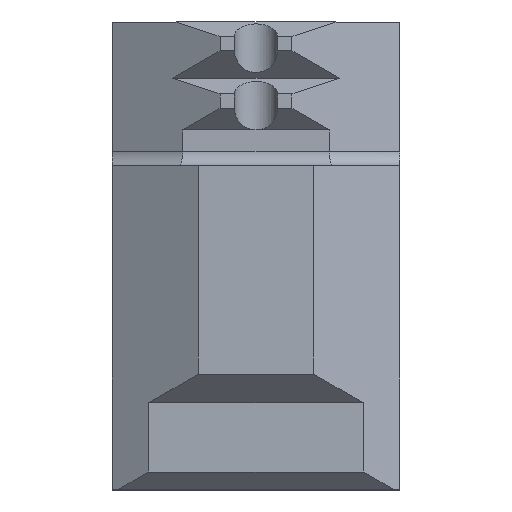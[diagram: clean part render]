
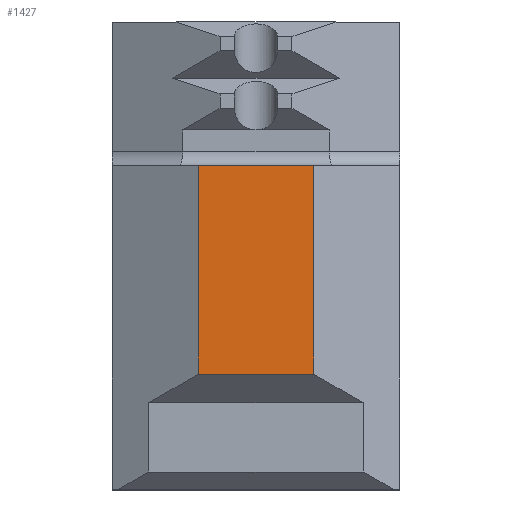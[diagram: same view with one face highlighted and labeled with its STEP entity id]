
A CAD part, top view. The second image highlights one B-rep face of the part: STEP entity #1427.
In plain terms, the highlighted planar face has unit normal (0, 0, 1).
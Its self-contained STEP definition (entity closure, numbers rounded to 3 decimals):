
#32 = ORIENTED_EDGE ( 'NONE', *, *, #1534, .F. ) ;
#52 = ORIENTED_EDGE ( 'NONE', *, *, #1485, .T. ) ;
#61 = ORIENTED_EDGE ( 'NONE', *, *, #1517, .T. ) ;
#109 = CARTESIAN_POINT ( 'NONE',  ( -4., 7.5, -94. ) ) ;
#238 = VERTEX_POINT ( 'NONE', #109 ) ;
#406 = LINE ( 'NONE', #407, #1329 ) ;
#407 = CARTESIAN_POINT ( 'NONE',  ( -4., 32., -94. ) ) ;
#408 = DIRECTION ( 'NONE',  ( 0., -1., 0. ) ) ;
#434 = CARTESIAN_POINT ( 'NONE',  ( -10., 32., -94. ) ) ;
#445 = FACE_OUTER_BOUND ( 'NONE', #1647, .T. ) ;
#449 = PLANE ( 'NONE',  #1264 ) ;
#451 = DIRECTION ( 'NONE',  ( 0., 0., -1. ) ) ;
#452 = DIRECTION ( 'NONE',  ( -1., 0., 0. ) ) ;
#652 = LINE ( 'NONE', #653, #1172 ) ;
#653 = CARTESIAN_POINT ( 'NONE',  ( -10., 7.5, -94. ) ) ;
#654 = DIRECTION ( 'NONE',  ( 1., 0., 0. ) ) ;
#750 = LINE ( 'NONE', #751, #1287 ) ;
#751 = CARTESIAN_POINT ( 'NONE',  ( 4., 32., -94. ) ) ;
#752 = DIRECTION ( 'NONE',  ( 0., 1., 0. ) ) ;
#801 = LINE ( 'NONE', #805, #1300 ) ;
#805 = CARTESIAN_POINT ( 'NONE',  ( -10., 22., -94. ) ) ;
#806 = DIRECTION ( 'NONE',  ( 1., 0., 0. ) ) ;
#986 = CARTESIAN_POINT ( 'NONE',  ( 4., 22., -94. ) ) ;
#987 = CARTESIAN_POINT ( 'NONE',  ( 4., 7.5, -94. ) ) ;
#1025 = CARTESIAN_POINT ( 'NONE',  ( -4., 22., -94. ) ) ;
#1172 = VECTOR ( 'NONE', #654, 1000. ) ;
#1264 = AXIS2_PLACEMENT_3D ( 'NONE', #434, #451, #452 ) ;
#1287 = VECTOR ( 'NONE', #752, 1000. ) ;
#1300 = VECTOR ( 'NONE', #806, 1000. ) ;
#1329 = VECTOR ( 'NONE', #408, 1000. ) ;
#1417 = EDGE_CURVE ( 'NONE', #1882, #238, #406, .T. ) ;
#1427 = ADVANCED_FACE ( 'NONE', ( #445 ), #449, .F. ) ;
#1485 = EDGE_CURVE ( 'NONE', #238, #1694, #652, .T. ) ;
#1517 = EDGE_CURVE ( 'NONE', #1694, #1661, #750, .T. ) ;
#1534 = EDGE_CURVE ( 'NONE', #1882, #1661, #801, .T. ) ;
#1647 = EDGE_LOOP ( 'NONE', ( #1675, #52, #61, #32 ) ) ;
#1661 = VERTEX_POINT ( 'NONE', #986 ) ;
#1675 = ORIENTED_EDGE ( 'NONE', *, *, #1417, .T. ) ;
#1694 = VERTEX_POINT ( 'NONE', #987 ) ;
#1882 = VERTEX_POINT ( 'NONE', #1025 ) ;
